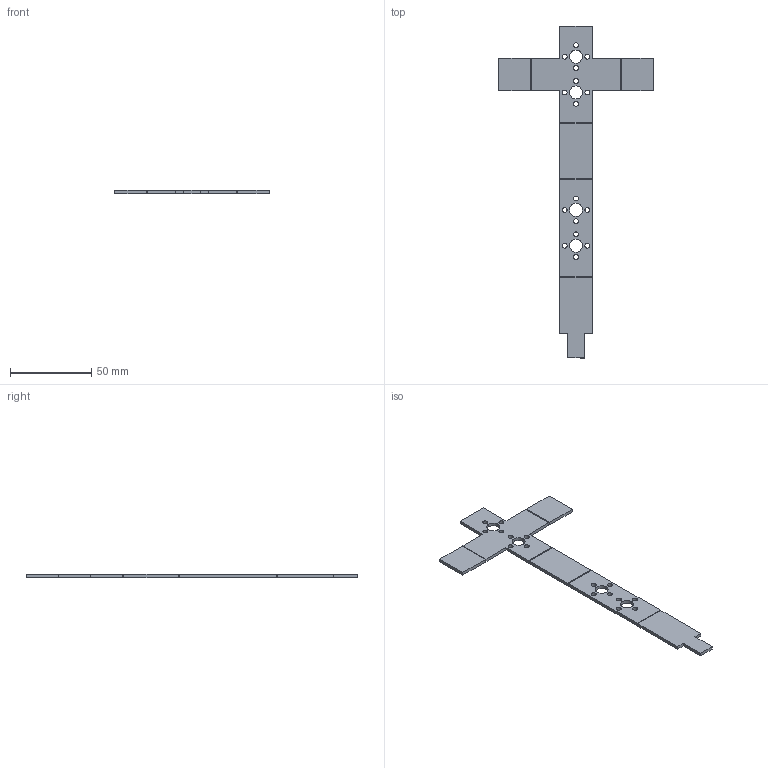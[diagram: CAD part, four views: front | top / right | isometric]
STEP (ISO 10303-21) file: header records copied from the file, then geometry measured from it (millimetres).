
FILE_DESCRIPTION (( 'STEP AP214' ), '1' );
FILE_NAME ('Shell Bracket Under.STEP', '2020-04-03T13:23:36', ( '' ), ( '' ), 'SwSTEP 2.0', 'SolidWorks 2019', '' );
FILE_SCHEMA (( 'AUTOMOTIVE_DESIGN' ));
Length unit declared in the file: millimetre
Products named in the file (1): Shell Bracket Under
Bounding box: 94.99 x 203.98 x 2 mm (x, y, z)
Volume: 10230.4 mm3; surface area: 11929 mm2
Topology: 1 solids, 1 shells, 98 faces, 248 edges, 152 vertices
Faces by surface type: plane 58, cylinder 40
Entity records: 3026 total; most frequent: DIRECTION 526, CARTESIAN_POINT 499, ORIENTED_EDGE 496, EDGE_CURVE 248, AXIS2_PLACEMENT_3D 179, LINE 168, VECTOR 168, VERTEX_POINT 152
